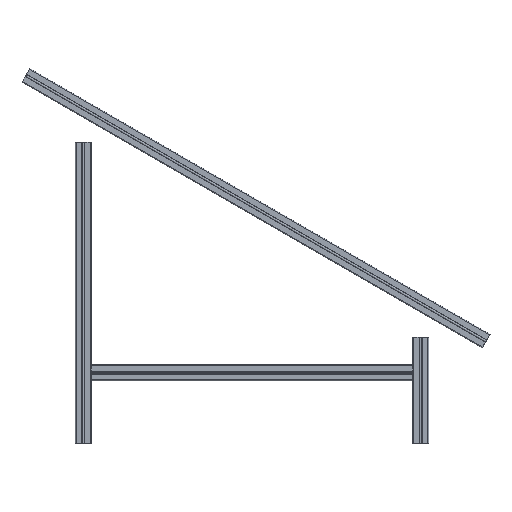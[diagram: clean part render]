
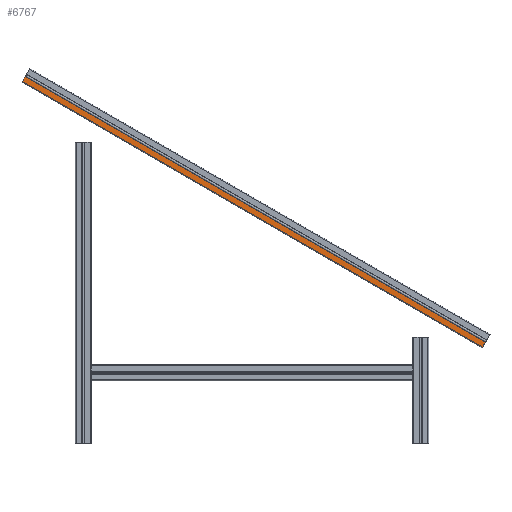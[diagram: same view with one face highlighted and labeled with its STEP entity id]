
A CAD part, top view. The second image highlights one B-rep face of the part: STEP entity #6767.
In plain terms, the highlighted planar face has unit normal (0, 0, 1).
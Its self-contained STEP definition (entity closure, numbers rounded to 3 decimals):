
#1269 = EDGE_LOOP ( 'NONE', ( #5776, #5778, #5777, #5779 ) ) ;
#2268 = VERTEX_POINT ( 'NONE', #10641 ) ;
#2269 = VERTEX_POINT ( 'NONE', #10642 ) ;
#2270 = VERTEX_POINT ( 'NONE', #10643 ) ;
#2271 = VERTEX_POINT ( 'NONE', #10644 ) ;
#5776 = ORIENTED_EDGE ( 'NONE', *, *, #6384, .T. ) ;
#5777 = ORIENTED_EDGE ( 'NONE', *, *, #6385, .F. ) ;
#5778 = ORIENTED_EDGE ( 'NONE', *, *, #6383, .F. ) ;
#5779 = ORIENTED_EDGE ( 'NONE', *, *, #6380, .T. ) ;
#6380 = EDGE_CURVE ( 'NONE', #2269, #2268, #13148, .T. ) ;
#6383 = EDGE_CURVE ( 'NONE', #2271, #2270, #13151, .T. ) ;
#6384 = EDGE_CURVE ( 'NONE', #2268, #2270, #13152, .T. ) ;
#6385 = EDGE_CURVE ( 'NONE', #2269, #2271, #13153, .T. ) ;
#6767 = ADVANCED_FACE ( 'NONE', ( #13451 ), #17244, .F. ) ;
#10641 = CARTESIAN_POINT ( 'NONE',  ( -163.664, 1035.706, 22.5 ) ) ;
#10642 = CARTESIAN_POINT ( 'NONE',  ( 1135.374, 285.706, 22.5 ) ) ;
#10643 = CARTESIAN_POINT ( 'NONE',  ( -171.588, 1021.981, 22.5 ) ) ;
#10644 = CARTESIAN_POINT ( 'NONE',  ( 1127.45, 271.981, 22.5 ) ) ;
#13148 = LINE ( 'NONE', #15609, #16274 ) ;
#13151 = LINE ( 'NONE', #15615, #16277 ) ;
#13152 = LINE ( 'NONE', #15617, #16278 ) ;
#13153 = LINE ( 'NONE', #15619, #16279 ) ;
#13451 = FACE_OUTER_BOUND ( 'NONE', #1269, .T. ) ;
#15609 = CARTESIAN_POINT ( 'NONE',  ( 1135.374, 285.706, 22.5 ) ) ;
#15610 = DIRECTION ( 'NONE',  ( -0.866, 0.5, 0. ) ) ;
#15615 = CARTESIAN_POINT ( 'NONE',  ( 1127.45, 271.981, 22.5 ) ) ;
#15616 = DIRECTION ( 'NONE',  ( -0.866, 0.5, 0. ) ) ;
#15617 = CARTESIAN_POINT ( 'NONE',  ( -163.664, 1035.706, 22.5 ) ) ;
#15618 = DIRECTION ( 'NONE',  ( -0.5, -0.866, 0. ) ) ;
#15619 = CARTESIAN_POINT ( 'NONE',  ( 1135.374, 285.706, 22.5 ) ) ;
#15620 = DIRECTION ( 'NONE',  ( -0.5, -0.866, 0. ) ) ;
#16274 = VECTOR ( 'NONE', #15610, 1000. ) ;
#16277 = VECTOR ( 'NONE', #15616, 1000. ) ;
#16278 = VECTOR ( 'NONE', #15618, 1000. ) ;
#16279 = VECTOR ( 'NONE', #15620, 1000. ) ;
#16763 = AXIS2_PLACEMENT_3D ( 'NONE', #17245, #17246, #17247 ) ;
#17244 = PLANE ( 'NONE',  #16763 ) ;
#17245 = CARTESIAN_POINT ( 'NONE',  ( 1135.374, 285.706, 22.5 ) ) ;
#17246 = DIRECTION ( 'NONE',  ( 0., 0., -1. ) ) ;
#17247 = DIRECTION ( 'NONE',  ( -1., 0., 0. ) ) ;
